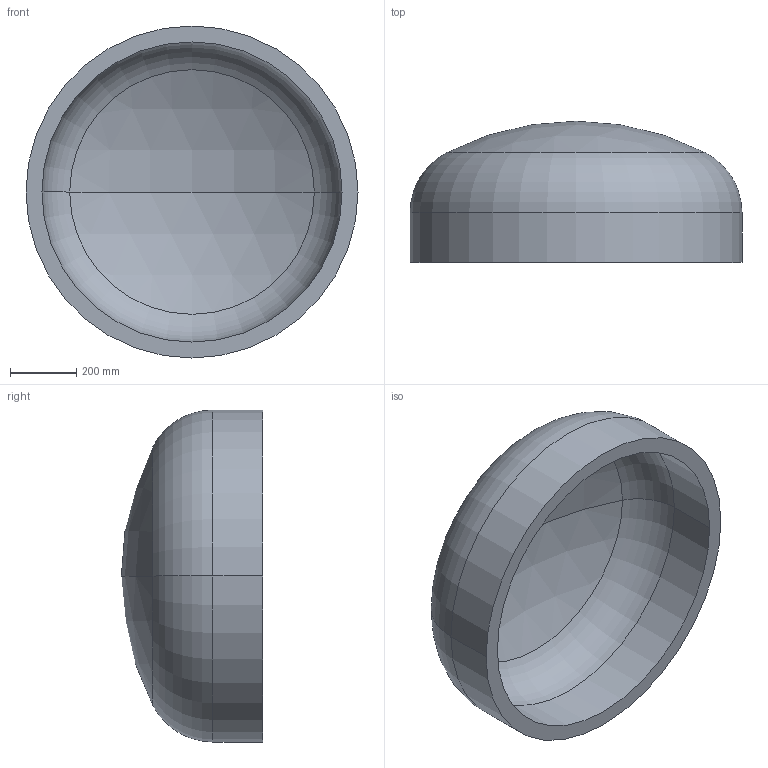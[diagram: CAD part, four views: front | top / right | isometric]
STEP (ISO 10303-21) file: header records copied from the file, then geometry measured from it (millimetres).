
FILE_DESCRIPTION (( 'STEP AP203' ), '1' );
FILE_NAME ('DIN 28013 Korbbogenform_-_Boden DIN 28013 - 1000 x 150 - I - s=48.step', '2016-07-01T08:50:19', ( '' ), ( '' ), 'SwSTEP 2.0', 'SolidWorks 2013', '' );
FILE_SCHEMA (( 'CONFIG_CONTROL_DESIGN' ));
Length unit declared in the file: millimetre
Products named in the file (1): DIN 28013 Korbbogenform_-_Boden DIN 28013 - 1000 x 150 - I - s=48
Bounding box: 1000 x 425.45 x 1000 mm (x, y, z)
Volume: 70683372.1 mm3; surface area: 3093523.6 mm2
Topology: 1 solids, 1 shells, 13 faces, 24 edges, 14 vertices
Faces by surface type: torus 4, cylinder 4, sphere 4, plane 1
Entity records: 407 total; most frequent: DIRECTION 72, CARTESIAN_POINT 52, ORIENTED_EDGE 48, AXIS2_PLACEMENT_3D 34, EDGE_CURVE 24, CIRCLE 20, VERTEX_POINT 14, EDGE_LOOP 14
